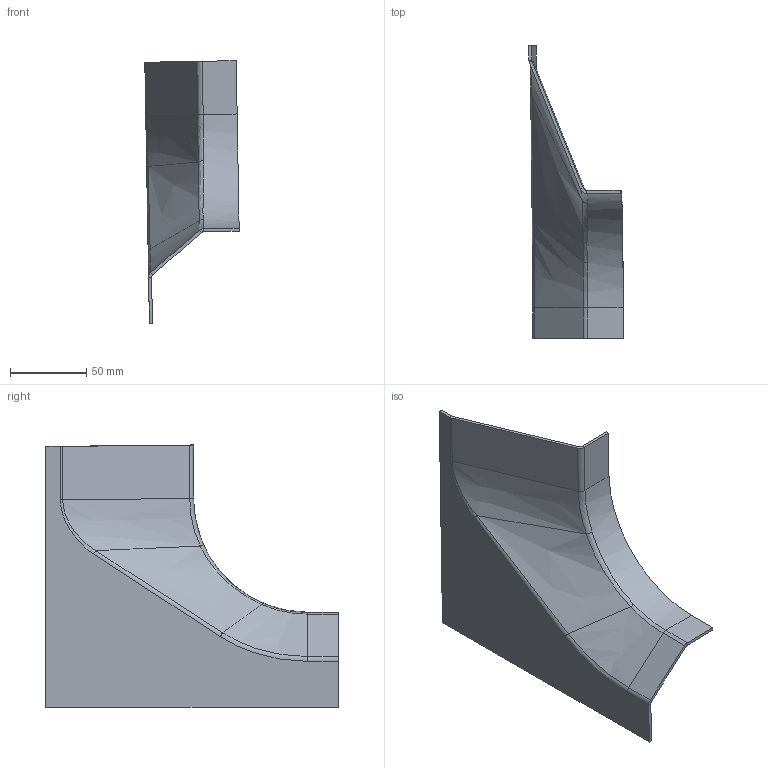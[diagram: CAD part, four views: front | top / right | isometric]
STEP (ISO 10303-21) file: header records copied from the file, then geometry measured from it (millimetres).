
FILE_DESCRIPTION(('CATIA V5 STEP Exchange','CAx-IF Rec.Pracs.--- Model Styling and Organization---1.4--- 2014-01-23'),'2;1');
FILE_NAME('C:\Users\User\Desktop\ШТАМП\SKK.2024.01-01.01.015_Shtamp.stp','2026-02-24T05:59:11+00:00',('none'),('none'),'CATIA Version 5-6 Release 2018 SP6','CATIA V5 STEP AP203 WITH EXTENSIONS','none');
FILE_SCHEMA(('CONFIG_CONTROL_DESIGN','SHAPE_APPEARANCE_LAYER_MIM'));
Length unit declared in the file: millimetre
Products named in the file (1): SKK.2024.01-01.01.015_Shtamp
Bounding box: 61.95 x 192.02 x 172.45 mm (x, y, z)
Volume: 60727.4 mm3; surface area: 62256.7 mm2
Topology: 1 solids, 1 shells, 53 faces, 113 edges, 62 vertices
Faces by surface type: bspline 27, plane 18, cylinder 8
Entity records: 4025 total; most frequent: CARTESIAN_POINT 3068, ORIENTED_EDGE 226, EDGE_CURVE 113, DIRECTION 100, B_SPLINE_CURVE_WITH_KNOTS 65, VERTEX_POINT 62, ADVANCED_FACE 53, EDGE_LOOP 53
